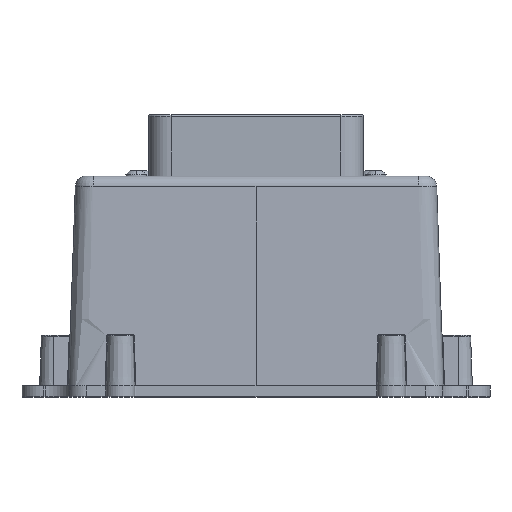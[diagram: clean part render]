
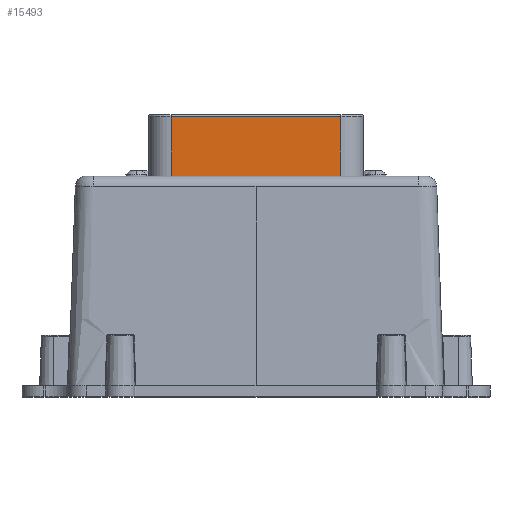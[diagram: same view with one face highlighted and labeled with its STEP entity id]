
A CAD part, top view. The second image highlights one B-rep face of the part: STEP entity #15493.
In plain terms, the highlighted planar face has unit normal (0, 0, 1).
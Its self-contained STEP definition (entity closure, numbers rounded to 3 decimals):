
#9 = DIRECTION ( 'NONE',  ( 1., 0., 0. ) ) ;
#326 = CARTESIAN_POINT ( 'NONE',  ( -32.122, 98.33, 148.83 ) ) ;
#582 = VERTEX_POINT ( 'NONE', #15935 ) ;
#606 = CARTESIAN_POINT ( 'NONE',  ( 14.878, 81.83, 148.83 ) ) ;
#690 = VERTEX_POINT ( 'NONE', #16262 ) ;
#1863 = VECTOR ( 'NONE', #19387, 1000. ) ;
#2649 = CARTESIAN_POINT ( 'NONE',  ( -32.122, 78.83, 148.83 ) ) ;
#3025 = VECTOR ( 'NONE', #9, 1000. ) ;
#3433 = ORIENTED_EDGE ( 'NONE', *, *, #16598, .F. ) ;
#3706 = DIRECTION ( 'NONE',  ( 0., 1., 0. ) ) ;
#4365 = LINE ( 'NONE', #16079, #7158 ) ;
#6058 = CARTESIAN_POINT ( 'NONE',  ( 14.878, 78.83, 148.83 ) ) ;
#6435 = AXIS2_PLACEMENT_3D ( 'NONE', #2649, #18968, #15673 ) ;
#7158 = VECTOR ( 'NONE', #12868, 1000. ) ;
#7813 = EDGE_CURVE ( 'NONE', #16130, #12969, #7862, .T. ) ;
#7862 = LINE ( 'NONE', #6058, #1863 ) ;
#7934 = CARTESIAN_POINT ( 'NONE',  ( 14.878, 98.33, 148.83 ) ) ;
#8259 = ORIENTED_EDGE ( 'NONE', *, *, #9149, .F. ) ;
#9149 = EDGE_CURVE ( 'NONE', #690, #582, #14908, .T. ) ;
#9152 = PLANE ( 'NONE',  #6435 ) ;
#9417 = VECTOR ( 'NONE', #3706, 1000. ) ;
#11381 = ORIENTED_EDGE ( 'NONE', *, *, #7813, .T. ) ;
#11935 = ORIENTED_EDGE ( 'NONE', *, *, #14017, .F. ) ;
#12868 = DIRECTION ( 'NONE',  ( -1., 0., 0. ) ) ;
#12969 = VERTEX_POINT ( 'NONE', #7934 ) ;
#14017 = EDGE_CURVE ( 'NONE', #582, #12969, #17815, .T. ) ;
#14908 = LINE ( 'NONE', #16622, #9417 ) ;
#15493 = ADVANCED_FACE ( 'NONE', ( #17269 ), #9152, .T. ) ;
#15673 = DIRECTION ( 'NONE',  ( 0., -1., 0. ) ) ;
#15935 = CARTESIAN_POINT ( 'NONE',  ( -32.122, 98.33, 148.83 ) ) ;
#16079 = CARTESIAN_POINT ( 'NONE',  ( -53.622, 81.83, 148.83 ) ) ;
#16130 = VERTEX_POINT ( 'NONE', #606 ) ;
#16262 = CARTESIAN_POINT ( 'NONE',  ( -32.122, 81.83, 148.83 ) ) ;
#16598 = EDGE_CURVE ( 'NONE', #16130, #690, #4365, .T. ) ;
#16622 = CARTESIAN_POINT ( 'NONE',  ( -32.122, 78.83, 148.83 ) ) ;
#17269 = FACE_OUTER_BOUND ( 'NONE', #19953, .T. ) ;
#17815 = LINE ( 'NONE', #326, #3025 ) ;
#18968 = DIRECTION ( 'NONE',  ( 0., 0., 1. ) ) ;
#19387 = DIRECTION ( 'NONE',  ( 0., 1., 0. ) ) ;
#19953 = EDGE_LOOP ( 'NONE', ( #3433, #11381, #11935, #8259 ) ) ;
